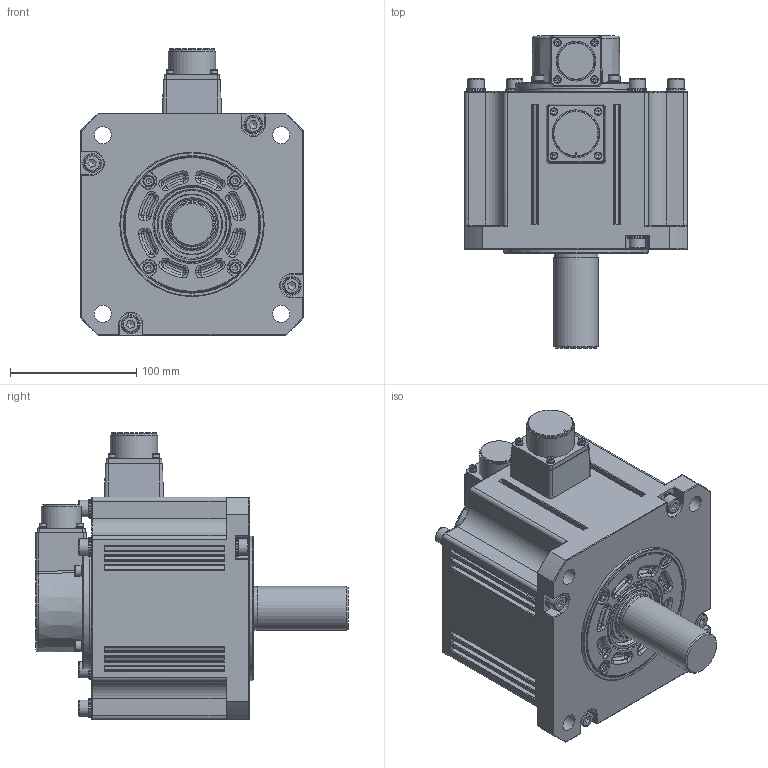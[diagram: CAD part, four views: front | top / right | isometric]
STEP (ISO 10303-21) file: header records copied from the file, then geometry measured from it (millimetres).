
FILE_DESCRIPTION((''),'2;1');
FILE_NAME('C:\Documents and Settings\11644\桌面\SME-M300.stp','2016-07-15T18:51:08',('11644'),(''),'Autodesk Inventor 2008','Autodesk Inventor 2008','');
FILE_SCHEMA(('AUTOMOTIVE_DESIGN { 1 0 10303 214 1 1 1 1 }'));
Length unit declared in the file: millimetre
Products named in the file (2): SME-M300; SME-M300_63
Assembly tree (1 placements, depth 2):
  SME-M300
    SME-M300_63
Bounding box: 176 x 247 x 227.3 mm (x, y, z)
Volume: 3860906.5 mm3; surface area: 216051.8 mm2
Topology: 1 solids, 1 shells, 953 faces, 2221 edges, 1345 vertices
Faces by surface type: plane 369, cylinder 315, torus 146, cone 60, bspline 55, sphere 8
Full cylindrical faces by diameter (mm): 5.5 x8, 6 x8, 8.5 x8, 9 x8, 13 x8, 13.5 x4, 15 x8, 29.5 x1, 31.5 x1, 34.8 x1, 35 x1, 36 x1, 37.7 x1, 40 x1, 47.112 x2, 55.504 x1, 60 x1, 95.8 x1, 108 x1, 114.3 x1
Entity records: 29120 total; most frequent: CARTESIAN_POINT 7262, DIRECTION 4480, ORIENTED_EDGE 3986, EDGE_CURVE 1993, AXIS2_PLACEMENT_3D 1770, VERTEX_POINT 1313, EDGE_LOOP 1232, STYLED_ITEM 954
